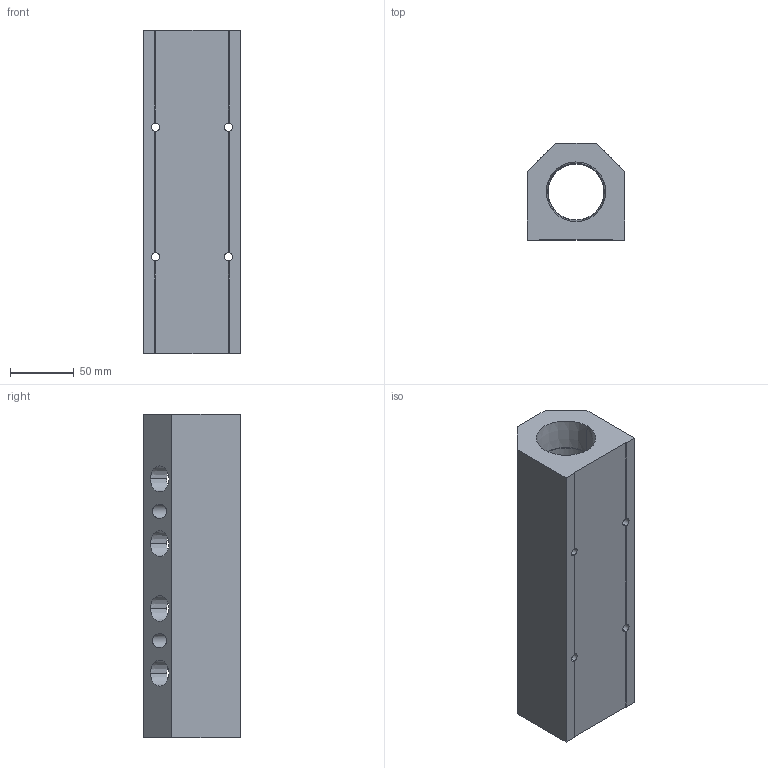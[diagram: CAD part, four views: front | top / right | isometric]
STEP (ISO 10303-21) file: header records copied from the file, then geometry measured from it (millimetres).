
FILE_DESCRIPTION (( 'STEP AP214' ), '1' );
FILE_NAME ('ALM4BCD-N8N24-254B.step', '2022-02-07T09:29:12', ( '' ), ( '' ), 'SwSTEP 2.0', 'SolidWorks 2020', '' );
FILE_SCHEMA (( 'AUTOMOTIVE_DESIGN' ));
Length unit declared in the file: millimetre
Products named in the file (1): ALM4BCD-N8N24-254B
Bounding box: 76.2 x 76.2 x 254 mm (x, y, z)
Volume: 876091.9 mm3; surface area: 124516.3 mm2
Topology: 1 solids, 1 shells, 350 faces, 949 edges, 630 vertices
Faces by surface type: plane 230, bspline 74, cone 28, cylinder 18
Entity records: 19981 total; most frequent: CARTESIAN_POINT 8364, ORIENTED_EDGE 1898, DIRECTION 1351, EDGE_CURVE 949, LINE 677, VECTOR 677, VERTEX_POINT 630, EDGE_LOOP 413
